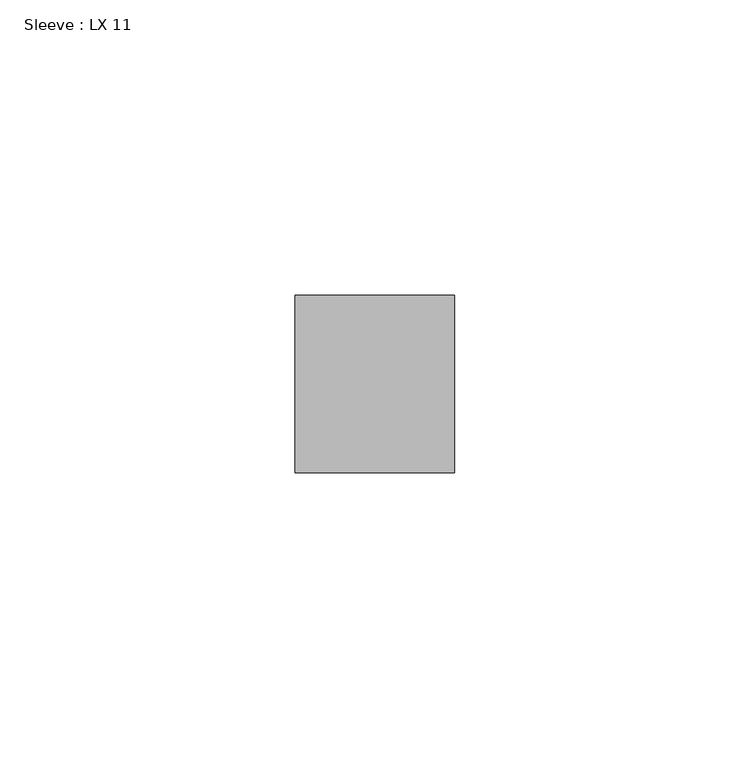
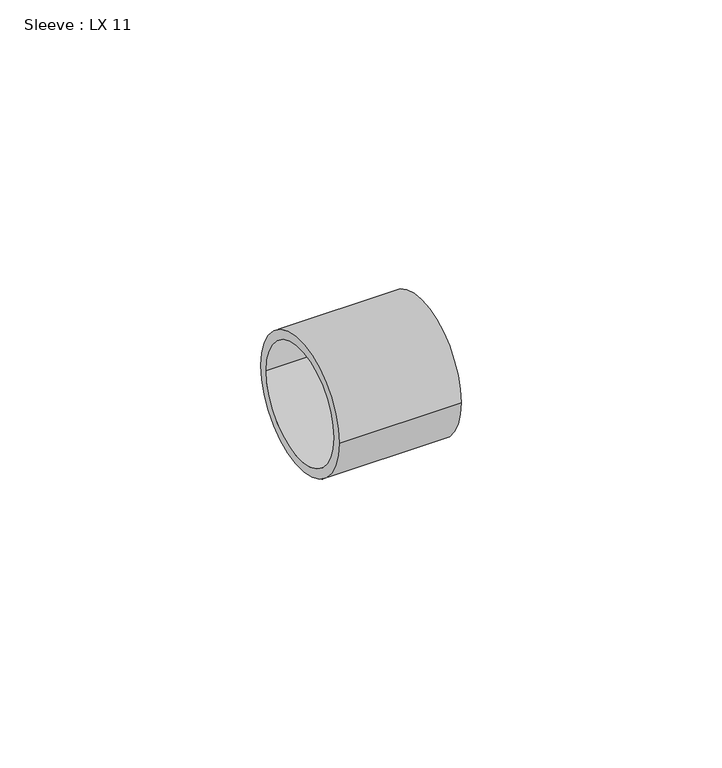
"""IFC4 building model written with IfcOpenShell, lengths in millimetres: pipe fitting geometry, Sleeve : LX 11."""

from ifc_helpers import new_model, si_unit, point, frame, origin, origin_2d, place, context, project, spatial, circle_curve, trimmed, segment, composite_curve, outline, extrude, source, transform, mapped, element, save


def sleeve_lx_11_f19e3dbf(model_context):
    return source(origin(), model_context, "Body", "SweptSolid", [
        extrude(outline(composite_curve([segment(trimmed(circle_curve(origin_2d(), 15.0), [point((-15.0, 0.0))], [point((15.0, 0.0))], False, "CARTESIAN"), True, "CONTINUOUS"), segment(trimmed(circle_curve(origin_2d(), 15.0), [point((15.0, 0.0))], [point((-15.0, 0.0))], False, "CARTESIAN"), True, "CONTINUOUS")], self_intersect=False), holes=[composite_curve([segment(trimmed(circle_curve(origin_2d(), 12.95), [point((-12.95, 0.0))], [point((12.95, 0.0))], True, "CARTESIAN"), True, "CONTINUOUS"), segment(trimmed(circle_curve(origin_2d(), 12.95), [point((12.95, 0.0))], [point((-12.95, 0.0))], True, "CARTESIAN"), True, "CONTINUOUS")], self_intersect=False)]), frame((0.0, 0.0, 0.0), z_axis=(1.0, 0.0, 0.0), x_axis=(0.0, 1.0, 0.0)), (0.0, 0.0, 1.0), 27.0),
    ])


if __name__ == "__main__":
    model = new_model("IFC4")
    model_context = context("Model", 3, world=origin())
    ifc_project = project(units=[si_unit("LENGTHUNIT", "METRE", prefix="MILLI")], contexts=[model_context])
    site = spatial("IfcSite", under=ifc_project)
    building = spatial("IfcBuilding", under=site)
    placement = place(None, origin())
    sleeve_lx_11_shape = sleeve_lx_11_f19e3dbf(model_context)
    element("IfcPipeFitting", 1, ObjectType="Sleeve : LX 11", at=placement, inside=building, context=model_context, shape_type="MappedRepresentation", body=[
        mapped(sleeve_lx_11_shape, transform((0.0, 0.0, 0.0), x_axis=(1.0, 0.0, 0.0), y_axis=(0.0, 1.0, 0.0), z_axis=(0.0, 0.0, 1.0))),
    ])
    save(model, "model.ifc")
